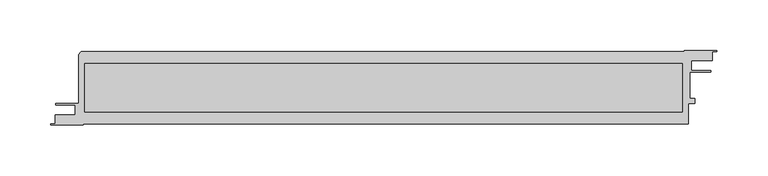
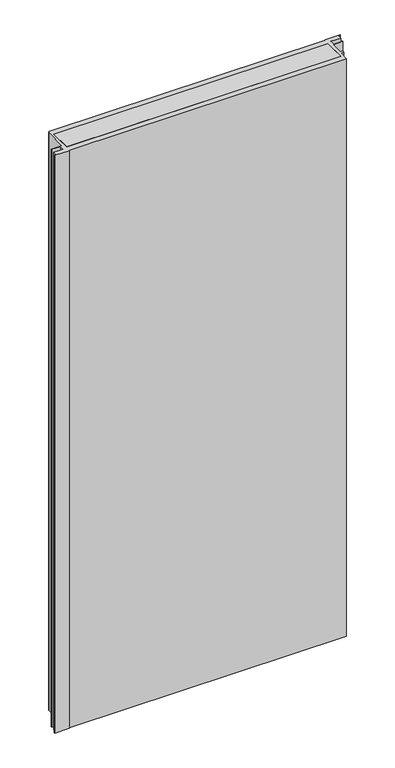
"""IFC4 building model written with IfcOpenShell, lengths in millimetres: plate geometry, Walls_External-Walls_Danpal_Danpatherm-K7-with-NM-Frame : Walls_External-Walls_Danpal_Danpatherm-K7-with-NM-Frame."""

import ifcopenshell
import ifcopenshell.guid

model = None  # the IFC model being written
_history = None  # IfcOwnerHistory: only IFC2X3 demands one
_inside = {}  # id of a spatial element -> (the spatial element, [elements in it])
_under = {}  # id of a project, library or spatial element -> (it, [spatial elements below it])
_declared = {}  # id of a project -> (the project, [libraries it declares])
_typed = {}  # id of a type object -> (the type object, [elements of that type])
_made_of = {}  # id of a material, layer set ... -> (it, [elements and type objects made of it])


def new_model(schema):
    """Start an empty IFC model of exactly this schema.

    Asked for "IFC4X3", IfcOpenShell would pick the latest addendum, in which some entities
    have other attributes; the version numbers below select the first issue.
    IFC2X3 requires an IfcOwnerHistory on every rooted entity: one is made here for all.
    """
    global model, _history
    if schema == "IFC4X3":
        model = ifcopenshell.file(schema_version=(4, 3, 0, 0))
    else:
        model = ifcopenshell.file(schema=schema)
    _inside.clear()
    _under.clear()
    _declared.clear()
    _typed.clear()
    _made_of.clear()
    _history = None
    if model.schema == "IFC2X3":
        org = make("IfcOrganization", Name="unknown")
        user = make(
            "IfcPersonAndOrganization",
            ThePerson=make("IfcPerson", FamilyName="unknown"),
            TheOrganization=org,
        )
        app = make(
            "IfcApplication",
            ApplicationDeveloper=org,
            Version="unknown",
            ApplicationFullName="unknown",
            ApplicationIdentifier="unknown",
        )
        _history = make(
            "IfcOwnerHistory",
            OwningUser=user,
            OwningApplication=app,
            ChangeAction="ADDED",
            CreationDate=0,
        )
    return model


def make(cls, **values):
    """One entity of the class cls with the attributes given. An attribute that is None is left unset."""
    return model.create_entity(
        cls, **{name: value for name, value in values.items() if value is not None}
    )


def rooted(cls, **values):
    """An entity with a GlobalId (a new one), such as an element, a storey or a relation."""
    return make(cls, GlobalId=ifcopenshell.guid.new(), OwnerHistory=_history, **values)


def si_unit(unit_type, name, prefix=None):
    """IfcSIUnit, for example si_unit("LENGTHUNIT", "METRE", prefix="MILLI")."""
    return make("IfcSIUnit", UnitType=unit_type, Prefix=prefix, Name=name)


def assignment(units):
    """IfcUnitAssignment: the units of a project."""
    return None if units is None else make("IfcUnitAssignment", Units=units)


def point(xyz):
    """IfcCartesianPoint."""
    return None if xyz is None else make("IfcCartesianPoint", Coordinates=xyz)


def direction(xyz):
    """IfcDirection."""
    return None if xyz is None else make("IfcDirection", DirectionRatios=xyz)


def frame(location, z_axis=None, x_axis=None):
    """IfcAxis2Placement3D, a coordinate frame: its origin and axes. An axis left out is left unset."""
    return make(
        "IfcAxis2Placement3D",
        Location=point(location),
        Axis=direction(z_axis),
        RefDirection=direction(x_axis),
    )


def frame_2d(location, x_axis=None):
    """IfcAxis2Placement2D, a coordinate frame in the plane: its origin and x axis."""
    return make(
        "IfcAxis2Placement2D", Location=point(location), RefDirection=direction(x_axis)
    )


def origin():
    """The frame at (0, 0, 0) with its axes left unset."""
    return frame((0.0, 0.0, 0.0))


def place(relative_to, where):
    """IfcLocalPlacement: puts the frame where relative to a parent placement (None: the world)."""
    return make(
        "IfcLocalPlacement", PlacementRelTo=relative_to, RelativePlacement=where
    )


def context(
    kind, dimensions, precision=None, world=None, true_north=None, identifier=None
):
    """IfcGeometricRepresentationContext, for example the 3D "Model" context."""
    return make(
        "IfcGeometricRepresentationContext",
        ContextIdentifier=identifier,
        ContextType=kind,
        CoordinateSpaceDimension=dimensions,
        Precision=precision,
        WorldCoordinateSystem=world,
        TrueNorth=true_north,
    )


def project(units=None, contexts=None):
    """IfcProject with its units and contexts."""
    return rooted(
        "IfcProject",
        Name="project",
        RepresentationContexts=contexts,
        UnitsInContext=assignment(units),
    )


def spatial(cls, under=None, at=None, **own):
    """A site, building, storey or space (cls), placed at a placement, below another one or the project."""
    s = rooted(cls, ObjectPlacement=at, **own)
    if under is not None:
        _under.setdefault(under.id(), (under, []))[1].append(s)
    return s


def polyline(points):
    """IfcPolyline through the points."""
    return make("IfcPolyline", Points=[point(p) for p in points])


def circle_curve(where, radius):
    """IfcCircle in the frame where."""
    return make("IfcCircle", Position=where, Radius=radius)


def trimmed(basis, trim1, trim2, sense, master):
    """IfcTrimmedCurve: the piece of a basis curve between two trims."""
    return make(
        "IfcTrimmedCurve",
        BasisCurve=basis,
        Trim1=trim1,
        Trim2=trim2,
        SenseAgreement=sense,
        MasterRepresentation=master,
    )


def segment(curve, same_sense, transition):
    """IfcCompositeCurveSegment."""
    return make(
        "IfcCompositeCurveSegment",
        Transition=transition,
        SameSense=same_sense,
        ParentCurve=curve,
    )


def composite_curve(segments, self_intersect=None):
    """IfcCompositeCurve: segments joined end to end."""
    return make("IfcCompositeCurve", Segments=segments, SelfIntersect=self_intersect)


def outline(outer, holes=None, kind="AREA"):
    """IfcArbitraryClosedProfileDef: a profile drawn as a closed curve; with holes, ...WithVoids."""
    if holes is None:
        return make("IfcArbitraryClosedProfileDef", ProfileType=kind, OuterCurve=outer)
    return make(
        "IfcArbitraryProfileDefWithVoids",
        ProfileType=kind,
        OuterCurve=outer,
        InnerCurves=holes,
    )


def extrude(swept, where, along, depth):
    """IfcExtrudedAreaSolid: the profile swept, set in the frame where, extruded along a direction by depth."""
    return make(
        "IfcExtrudedAreaSolid",
        SweptArea=swept,
        Position=where,
        ExtrudedDirection=direction(along),
        Depth=depth,
    )


def shape(context_of_items, identifier, shape_type, items):
    """IfcShapeRepresentation: the items that make up one representation, for example the "Body"."""
    return make(
        "IfcShapeRepresentation",
        ContextOfItems=context_of_items,
        RepresentationIdentifier=identifier,
        RepresentationType=shape_type,
        Items=items,
    )


def source(mapping_origin, context_of_items, identifier, shape_type, items):
    """IfcRepresentationMap: a shape defined once, which mapped items show again and again."""
    return make(
        "IfcRepresentationMap",
        MappingOrigin=mapping_origin,
        MappedRepresentation=shape(context_of_items, identifier, shape_type, items),
    )


def transform(
    local_origin,
    x_axis=None,
    y_axis=None,
    z_axis=None,
    scale=None,
    scale2=None,
    scale3=None,
    uniform=True,
):
    """IfcCartesianTransformationOperator3D, or its non-uniform kind. x_axis, y_axis, z_axis: its Axis1, 2, 3."""
    if uniform:
        return make(
            "IfcCartesianTransformationOperator3D",
            Axis1=direction(x_axis),
            Axis2=direction(y_axis),
            LocalOrigin=point(local_origin),
            Scale=scale,
            Axis3=direction(z_axis),
        )
    return make(
        "IfcCartesianTransformationOperator3DnonUniform",
        Axis1=direction(x_axis),
        Axis2=direction(y_axis),
        LocalOrigin=point(local_origin),
        Scale=scale,
        Axis3=direction(z_axis),
        Scale2=scale2,
        Scale3=scale3,
    )


def mapped(mapping_source, mapping_target):
    """IfcMappedItem: shows the shape of a source again, moved by a transform."""
    return make(
        "IfcMappedItem", MappingSource=mapping_source, MappingTarget=mapping_target
    )


def made_of(thing, what):
    """Note that an element or type object is made of a material, layer set ...; save() writes the relation."""
    if what is not None:
        _made_of.setdefault(what.id(), (what, []))[1].append(thing)
    return thing


def element(
    cls,
    number,
    at=None,
    inside=None,
    cuts=None,
    type_object=None,
    material=None,
    context=None,
    identifier="Body",
    shape_type=None,
    held_by="IfcProductDefinitionShape",
    body=None,
    shapes=None,
    **own,
):
    """One element of the class cls, such as IfcWall. Its Tag is "e" and its number.

    at: its placement. inside: the storey or other place that contains it. cuts: it is an
    opening in that element (IfcRelVoidsElement). A single representation is given by context,
    identifier, shape_type and body (its items); several are given by shapes. held_by: the class
    of the entity that holds the representations. save() writes the other relations.
    """
    e = rooted(cls, Tag="e%d" % number, ObjectPlacement=at, **own)
    if body is not None:
        shapes = [shape(context, identifier, shape_type, body)]
    if shapes is not None:
        e.Representation = make(held_by, Representations=shapes)
    if inside is not None:
        _inside.setdefault(inside.id(), (inside, []))[1].append(e)
    if cuts is not None:
        rooted(
            "IfcRelVoidsElement", RelatingBuildingElement=cuts, RelatedOpeningElement=e
        )
    if type_object is not None:
        _typed.setdefault(type_object.id(), (type_object, []))[1].append(e)
    return made_of(e, material)


def aggregate(whole, parts):
    """IfcRelAggregates: a whole, such as a stair, and the parts it consists of."""
    return rooted("IfcRelAggregates", RelatingObject=whole, RelatedObjects=parts)


def save(model, path):
    """Write the relations noted so far, then the file.

    IfcRelAggregates (storeys below a building ...), IfcRelContainedInSpatialStructure (elements
    in a storey), IfcRelDefinesByType, IfcRelAssociatesMaterial and IfcRelDeclares: one each for
    every whole, place, type object, material and project.
    """
    for whole, parts in _under.values():
        aggregate(whole, parts)
    for where, things in _inside.values():
        rooted(
            "IfcRelContainedInSpatialStructure",
            RelatedElements=things,
            RelatingStructure=where,
        )
    for kind, things in _typed.values():
        rooted("IfcRelDefinesByType", RelatedObjects=things, RelatingType=kind)
    for what, things in _made_of.values():
        rooted("IfcRelAssociatesMaterial", RelatedObjects=things, RelatingMaterial=what)
    for by, libraries in _declared.values():
        rooted("IfcRelDeclares", RelatingContext=by, RelatedDefinitions=libraries)
    model.write(path)


def plate_2a7304a0(model_context):
    return source(origin(), model_context, "Body", "SweptSolid", [
        extrude(outline(polyline([(279.3176513, 12.7999917), (-309.4036211, 12.7999917), (-309.4036211, 60.3432727), (279.3176513, 60.3432727), (279.3176513, 12.7999917)])), frame((0.0, 0.0, -22.0), z_axis=(0.0, 0.0, 1.0), x_axis=(1.0, 0.0, 0.0)), (0.0, 0.0, 1.0), 1312.058414),
        extrude(outline(composite_curve([segment(polyline([(307.1570352, 53.4717617), (307.1570352, 52.1717185), (286.2570144, 52.1717185), (286.2570144, 26.0716456), (291.2570149, 26.0716456), (291.2570149, 20.9715623), (284.9570149, 20.9715623), (284.9570149, 0.8), (-310.7429914, 0.8), (-310.7429914, 0.0), (-342.6429914, 0.0), (-342.6429914, 0.8), (-338.4429914, 0.8), (-338.4429914, 9.7656785), (-318.6132316, 9.7656785), (-318.6132316, 19.6715177), (-337.5693772, 19.6715177), (-337.5693772, 20.9715623), (-315.0, 20.9715623), (-315.0, 68.5003761)]), True, "CONTINUOUS"), segment(trimmed(circle_curve(frame_2d((-311.1570911, 68.5003761)), 3.8429089), [point((-315.0, 68.5003761))], [point((-311.1570911, 72.343285))], False, "CARTESIAN"), True, "CONTINUOUS"), segment(polyline([(-311.1570911, 72.343285), (281.0568579, 72.343285), (281.0568579, 73.143285), (312.9568579, 73.143285), (312.9568579, 72.343285), (308.6568579, 72.343285), (308.6568579, 63.4717658), (287.7588048, 63.4717658), (287.7588048, 53.4717617), (307.1570352, 53.4717617)]), True, "CONTINUOUS")], self_intersect=False), holes=[polyline([(279.3176513, 12.7999917), (279.3176513, 60.3432727), (-309.4036211, 60.3432727), (-309.4036211, 12.7999917), (279.3176513, 12.7999917)])]), frame((0.0, 0.0, -22.0), z_axis=(0.0, 0.0, 1.0), x_axis=(1.0, 0.0, 0.0)), (0.0, 0.0, 1.0), 1312.058414),
    ])


if __name__ == "__main__":
    model = new_model("IFC4")
    model_context = context("Model", 3, world=origin())
    ifc_project = project(units=[si_unit("LENGTHUNIT", "METRE", prefix="MILLI")], contexts=[model_context])
    site = spatial("IfcSite", under=ifc_project)
    building = spatial("IfcBuilding", under=site)
    placement = place(None, origin())
    plate_shape = plate_2a7304a0(model_context)
    element("IfcPlate", 1, ObjectType="Walls_External-Walls_Danpal_Danpatherm-K7-with-NM-Frame : Walls_External-Walls_Danpal_Danpatherm-K7-with-NM-Frame", at=placement, inside=building, context=model_context, shape_type="MappedRepresentation", body=[
        mapped(plate_shape, transform((0.0, 0.0, 0.0), x_axis=(1.0, 0.0, 0.0), y_axis=(0.0, 1.0, 0.0), z_axis=(0.0, 0.0, 1.0))),
    ])
    save(model, "model.ifc")
